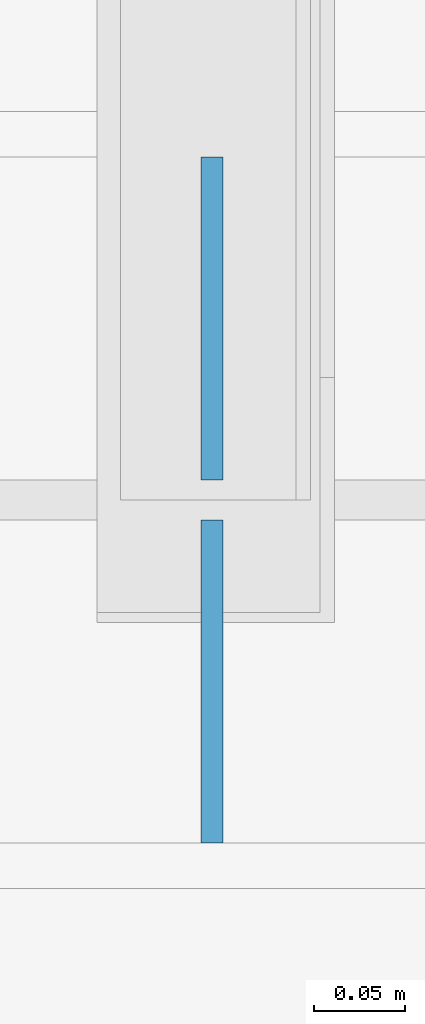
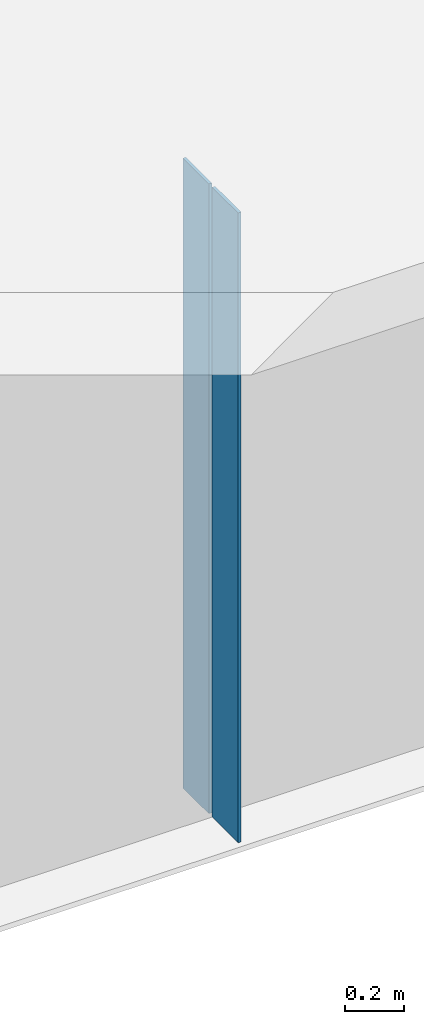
# One storey, part 6 of 13: 2 plates.
"""IFC4 building model written with IfcOpenShell, lengths in metres."""

from ifc_helpers import new_model, si_unit, frame, origin, origin_with_axes, origin_2d_with_axis, place, context, subcontext, project, spatial, rectangle, extrude, element, save


model = new_model("IFC4")

# Units and contexts
model_context = context("Model", 3, precision=1e-05, world=origin())
body_context = subcontext(model_context, "Body", "Model", "MODEL_VIEW")
ifc_project = project(units=[si_unit("LENGTHUNIT", "METRE"), si_unit("AREAUNIT", "SQUARE_METRE"), si_unit("VOLUMEUNIT", "CUBIC_METRE"), si_unit("PLANEANGLEUNIT", "RADIAN")], contexts=[model_context])

# Site, building, storey
site_placement = place(None, origin_with_axes())
site = spatial("IfcSite", under=ifc_project, at=site_placement, Name="Default Site")
building_placement = place(site_placement, origin_with_axes())
building = spatial("IfcBuilding", under=site, at=building_placement, Name="Bridge Structure")
storey_placement = place(building_placement, origin_with_axes())
storey = spatial("IfcBuildingStorey", under=building, at=storey_placement, Name="Superstructure")

# Plates
for number, where, z_axis, x_axis, name in (
    (1, (22.498, -4.02575, -1.305), (0.0, 0.0, 1.0), (1.0, 0.0, 0.0), "Intermediate Stiffener 1"),
    (2, (22.498, -4.2242500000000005, -1.305), (0.0, 0.0, 1.0), (1.0, 0.0, 0.0), "Intermediate Stiffener 1"),
):
    element("IfcPlate", number, at=place(storey_placement, frame(where, z_axis=z_axis, x_axis=x_axis)), inside=storey, Name=name, context=body_context, shape_type="SweptSolid", body=[
        extrude(rectangle(XDim=0.012, YDim=0.1765, at=origin_2d_with_axis()), origin_with_axes(), (0.0, 0.0, 1.0), 2.61),
    ])

save(model, "model.ifc")
